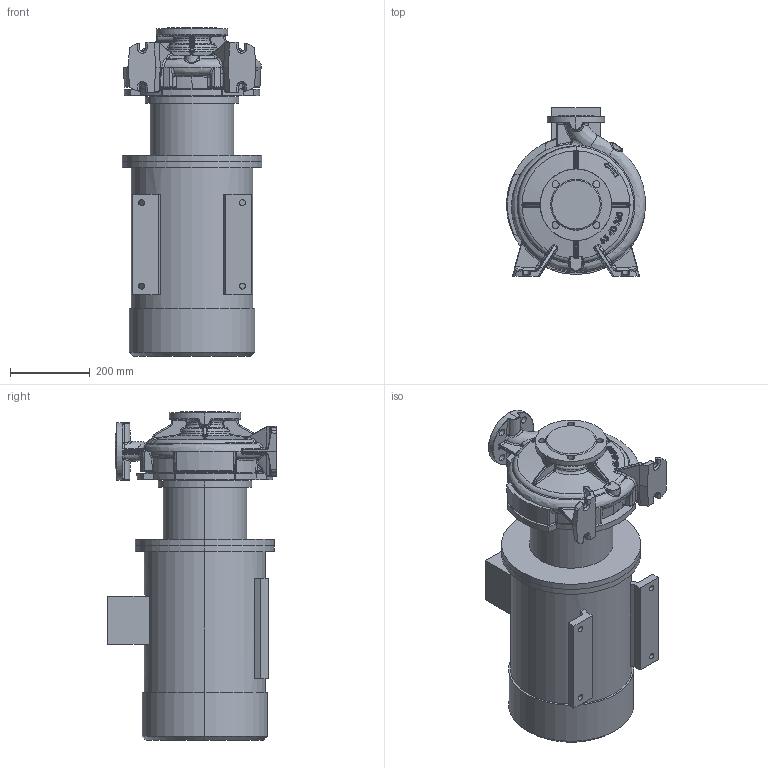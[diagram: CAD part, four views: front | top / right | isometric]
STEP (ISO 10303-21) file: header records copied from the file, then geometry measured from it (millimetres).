
FILE_DESCRIPTION (( 'STEP AP214' ), '1' );
FILE_NAME ('KRM 65-40-250-2-11.STEP', '2026-04-24T11:43:06', ( '' ), ( '' ), 'SwSTEP 2.0', 'SolidWorks 2016', '' );
FILE_SCHEMA (( 'AUTOMOTIVE_DESIGN' ));
Length unit declared in the file: millimetre
Products named in the file (1): KRM 65-40-250-2-11
Bounding box: 350 x 425 x 827.3 mm (x, y, z)
Volume: 56435245.8 mm3; surface area: 1842800.2 mm2
Topology: 4 solids, 4 shells, 1173 faces, 2853 edges, 1692 vertices
Faces by surface type: bspline 533, cylinder 218, plane 214, torus 96, cone 82, sphere 30
Entity records: 84928 total; most frequent: CARTESIAN_POINT 48889, ORIENTED_EDGE 5652, DIRECTION 3729, EDGE_CURVE 2826, VERTEX_POINT 1692, AXIS2_PLACEMENT_3D 1571, EDGE_LOOP 1228, UNCERTAINTY_MEASURE_WITH_UNIT 1179
